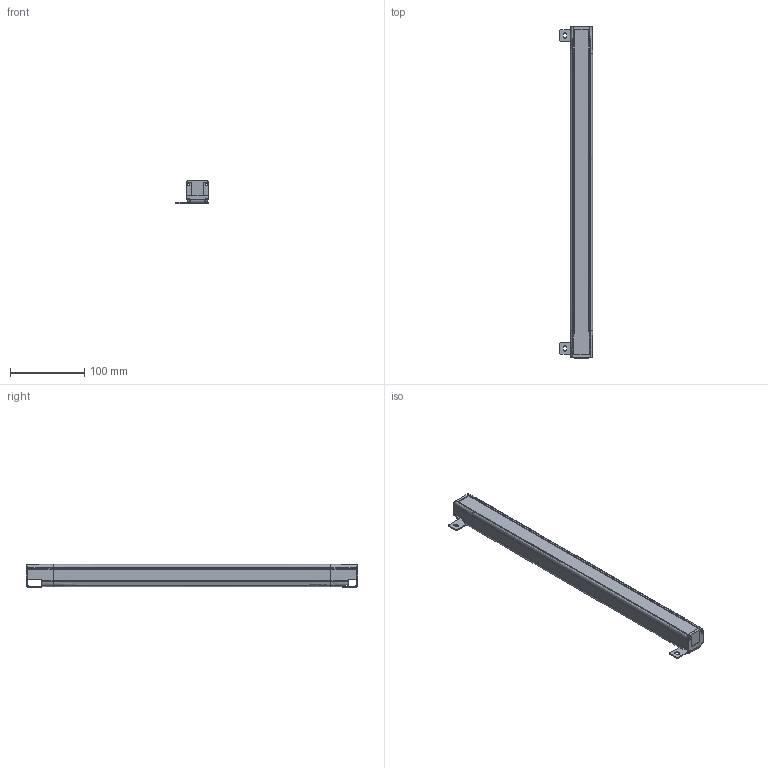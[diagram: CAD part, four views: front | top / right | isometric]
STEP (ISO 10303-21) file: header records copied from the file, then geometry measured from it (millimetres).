
FILE_DESCRIPTION(/* description */ (''),/* implementation_level */ '2;1');
FILE_NAME(/* name */ '4410(30X30).stp',/* time_stamp */ '2020-07-14T11:57:54+08:00',/* author */ (''),/* organization */ (''),/* preprocessor_version */ 'ST-DEVELOPER v16',/* originating_system */ 'SIEMENS PLM Software NX 10.0',/* authorisation */ '');
FILE_SCHEMA (('AP203_CONFIGURATION_CONTROLLED_3D_DESIGN_OF_MECHANICAL_PARTS_AND_ASSEMBLIES_MIM_LF { 1 0 10303 403 2 1 2}'));
Length unit declared in the file: millimetre
Products named in the file (1): Admi58A03253m5v5
Bounding box: 44.89 x 448.4 x 31.39 mm (x, y, z)
Volume: 138520.1 mm3; surface area: 149842.6 mm2
Topology: 6 solids, 6 shells, 441 faces, 1311 edges, 871 vertices
Faces by surface type: plane 256, cylinder 132, cone 32, bspline 14, extrusion 7
Full cylindrical faces by diameter (mm): 1.5 x2, 3.2 x8, 3.5 x8
Entity records: 15674 total; most frequent: CARTESIAN_POINT 3867, ORIENTED_EDGE 2528, DIRECTION 2314, EDGE_CURVE 1264, VECTOR 856, VERTEX_POINT 855, LINE 849, AXIS2_PLACEMENT_3D 729
